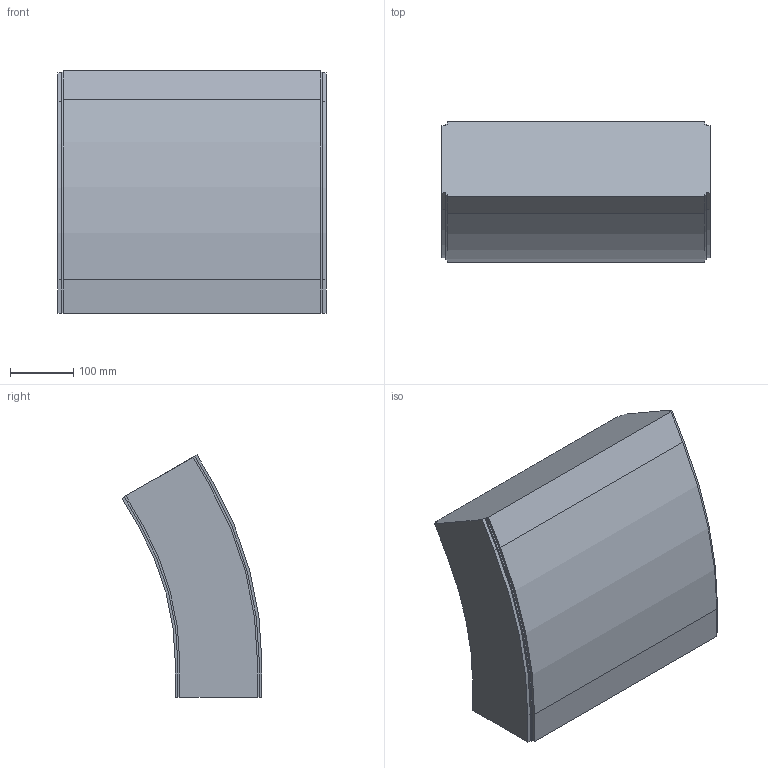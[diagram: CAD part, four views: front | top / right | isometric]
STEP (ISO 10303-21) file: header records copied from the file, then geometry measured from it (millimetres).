
FILE_DESCRIPTION (( 'STEP AP214' ), '1' );
FILE_NAME ('FS-MTC2-150-INOX verticaalbocht.420 30°.STEP', '2017-02-08T12:42:28', ( '' ), ( '' ), 'SwSTEP 2.0', 'SolidWorks 2016', '' );
FILE_SCHEMA (( 'AUTOMOTIVE_DESIGN' ));
Length unit declared in the file: millimetre
Products named in the file (1): FS-MTC2-150-INOX verticaalbocht.420 30°
Bounding box: 423 x 220.59 x 382.09 mm (x, y, z)
Volume: 21103692.7 mm3; surface area: 525517.9 mm2
Topology: 1 solids, 1 shells, 42 faces, 120 edges, 80 vertices
Faces by surface type: plane 32, cylinder 10
Entity records: 1398 total; most frequent: CARTESIAN_POINT 243, ORIENTED_EDGE 240, DIRECTION 226, EDGE_CURVE 120, LINE 100, VECTOR 100, VERTEX_POINT 80, AXIS2_PLACEMENT_3D 63
